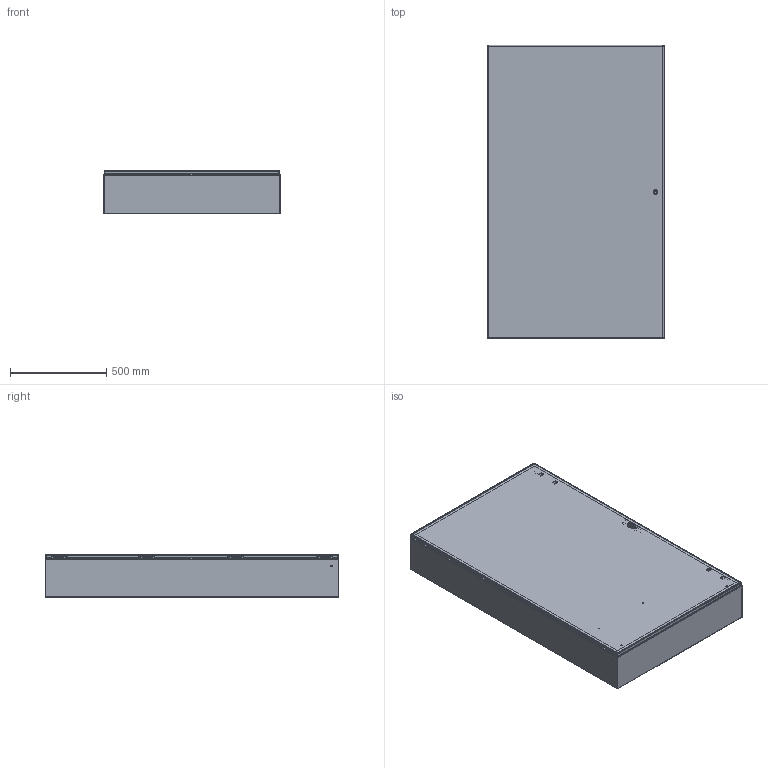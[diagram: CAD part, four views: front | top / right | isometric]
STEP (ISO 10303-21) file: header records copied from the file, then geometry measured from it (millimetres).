
FILE_DESCRIPTION (( 'STEP AP203' ), '1' );
FILE_NAME ('29437.step', '2015-03-30T06:43:01', ( '' ), ( '' ), 'SwSTEP 2.0', 'SolidWorks 2010', '' );
FILE_SCHEMA (( 'CONFIG_CONTROL_DESIGN' ));
Length unit declared in the file: inch
Products named in the file (34): 29437; 89117224; 89117223_default; 89117174_default; 89117173_default; 23271001_After Weld; 87937955_assy; 87937995_weldment; 87936154; 99401225; 51123001_Post weld; 87931362_87931362; 87408409_Unlocked; 64102001_Latch Open; 87540678; 64210001; 64202001; 64208001; 64205001; 87541995; 87541994_Installed Height; 64206006; 64207001; 64103001; 99411834; 87555298; 87938015; 87543027; 89076399; 89076193; 89056623; 87929507; 87929767; 87929769_Installed on Pin
Assembly tree (58 placements, depth 5):
  29437
    87929507  x4
      87929769_Installed on Pin
      87929767
    89076399  x4
      89056623
      89076193
    87543027  x4
    87937955_assy
      87937995_weldment
        87931362_87931362  x2
        51123001_Post weld
        99401225
        87936154
      87408409_Unlocked
        64207001  x2
        99411834  x2
        64102001_Latch Open
          87540678
          87541994_Installed Height
          64205001  x2
          87541995
          64208001
          64210001
          64202001
        64103001  x4
        64206006  x2
      87938015
      87555298
    89117224
      23271001_After Weld  x8
      89117174_default
      89117223_default
      99401225
      89117173_default
Bounding box: 914.4 x 1524 x 223.9 mm (x, y, z)
Volume: 7721696.3 mm3; surface area: 8277377.5 mm2
Topology: 58 solids, 58 shells, 3695 faces, 9558 edges, 6007 vertices
Faces by surface type: plane 1614, cylinder 1062, bspline 664, torus 201, cone 113, sphere 41
Entity records: 76512 total; most frequent: CARTESIAN_POINT 27147, ORIENTED_EDGE 9866, DIRECTION 8653, EDGE_CURVE 4933, VERTEX_POINT 3120, AXIS2_PLACEMENT_3D 2946, LINE 2761, VECTOR 2761
